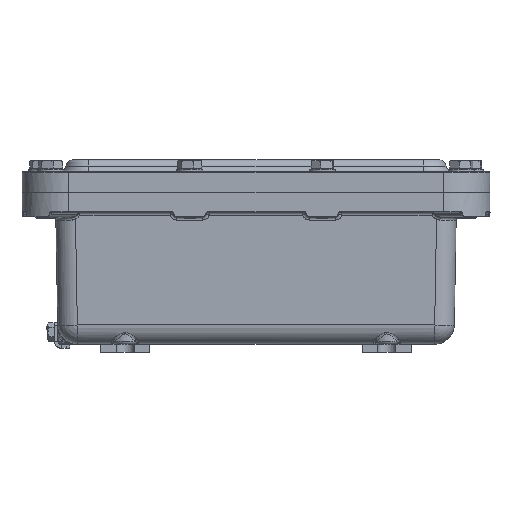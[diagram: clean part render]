
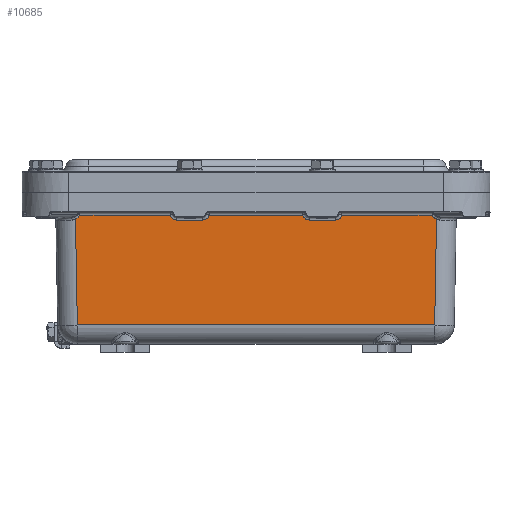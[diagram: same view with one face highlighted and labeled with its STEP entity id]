
A CAD part, left-side view. The second image highlights one B-rep face of the part: STEP entity #10685.
In plain terms, the highlighted planar face has unit normal (-1, 0, -0.018).
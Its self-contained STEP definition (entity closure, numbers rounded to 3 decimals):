
#10078=CARTESIAN_POINT('',(-72.212,-110.314,-16.476));
#10079=VERTEX_POINT('',#10078);
#10096=CARTESIAN_POINT('',(-72.256,-107.59,-13.965));
#10097=VERTEX_POINT('',#10096);
#10105=CARTESIAN_POINT('',(-72.274,-113.085,-12.965));
#10106=DIRECTION('',(-1.,0.0,-0.017));
#10107=DIRECTION('',(0.,1.,-0.017));
#10108=AXIS2_PLACEMENT_3D('',#10105,#10106,#10107);
#10109=ELLIPSE('',#10108,5.658,4.);
#10110=EDGE_CURVE('',#10097,#10079,#10109,.T.);
#10558=CARTESIAN_POINT('',(-71.084,-109.186,-81.109));
#10559=VERTEX_POINT('',#10558);
#10560=CARTESIAN_POINT('',(-72.212,-110.314,-16.476));
#10561=DIRECTION('',(0.017,0.017,-1.));
#10562=VECTOR('',#10561,64.653);
#10563=LINE('',#10560,#10562);
#10564=EDGE_CURVE('',#10079,#10559,#10563,.T.);
#10577=CARTESIAN_POINT('',(-72.5,122.6,0.0));
#10578=DIRECTION('',(-1.,0.0,-0.017));
#10579=DIRECTION('',(0.0,1.0,0.0));
#10580=AXIS2_PLACEMENT_3D('',#10577,#10578,#10579);
#10581=PLANE('',#10580);
#10582=ORIENTED_EDGE('',*,*,#10110,.F.);
#10583=CARTESIAN_POINT('',(-72.256,-52.355,-13.965));
#10584=VERTEX_POINT('',#10583);
#10585=CARTESIAN_POINT('',(-72.256,-52.355,-13.965));
#10586=DIRECTION('',(0.0,-1.0,0.0));
#10587=VECTOR('',#10586,55.235);
#10588=LINE('',#10585,#10587);
#10589=EDGE_CURVE('',#10097,#10584,#10588,.F.);
#10590=ORIENTED_EDGE('',*,*,#10589,.T.);
#10591=CARTESIAN_POINT('',(-72.204,-48.482,-16.965));
#10592=VERTEX_POINT('',#10591);
#10593=CARTESIAN_POINT('',(-72.274,-48.482,-12.965));
#10594=DIRECTION('',(-1.,0.,-0.017));
#10595=DIRECTION('',(0.017,0.,-1.));
#10596=AXIS2_PLACEMENT_3D('',#10593,#10594,#10595);
#10597=ELLIPSE('',#10596,4.001,4.0);
#10598=EDGE_CURVE('',#10592,#10584,#10597,.T.);
#10599=ORIENTED_EDGE('',*,*,#10598,.F.);
#10600=CARTESIAN_POINT('',(-72.204,-32.518,-16.965));
#10601=VERTEX_POINT('',#10600);
#10602=CARTESIAN_POINT('',(-72.204,-32.518,-16.965));
#10603=DIRECTION('',(0.0,-1.0,0.0));
#10604=VECTOR('',#10603,15.964);
#10605=LINE('',#10602,#10604);
#10606=EDGE_CURVE('',#10601,#10592,#10605,.T.);
#10607=ORIENTED_EDGE('',*,*,#10606,.F.);
#10608=CARTESIAN_POINT('',(-72.256,-28.645,-13.965));
#10609=VERTEX_POINT('',#10608);
#10610=CARTESIAN_POINT('',(-72.274,-32.518,-12.965));
#10611=DIRECTION('',(-1.,0.0,-0.017));
#10612=DIRECTION('',(0.017,0.,-1.));
#10613=AXIS2_PLACEMENT_3D('',#10610,#10611,#10612);
#10614=ELLIPSE('',#10613,4.001,4.);
#10615=EDGE_CURVE('',#10609,#10601,#10614,.T.);
#10616=ORIENTED_EDGE('',*,*,#10615,.F.);
#10617=CARTESIAN_POINT('',(-72.256,28.645,-13.965));
#10618=VERTEX_POINT('',#10617);
#10619=CARTESIAN_POINT('',(-72.256,28.645,-13.965));
#10620=DIRECTION('',(0.0,-1.0,0.0));
#10621=VECTOR('',#10620,57.29);
#10622=LINE('',#10619,#10621);
#10623=EDGE_CURVE('',#10609,#10618,#10622,.F.);
#10624=ORIENTED_EDGE('',*,*,#10623,.T.);
#10625=CARTESIAN_POINT('',(-72.204,32.518,-16.965));
#10626=VERTEX_POINT('',#10625);
#10627=CARTESIAN_POINT('',(-72.274,32.518,-12.965));
#10628=DIRECTION('',(-1.,0.,-0.017));
#10629=DIRECTION('',(0.017,0.,-1.));
#10630=AXIS2_PLACEMENT_3D('',#10627,#10628,#10629);
#10631=ELLIPSE('',#10630,4.001,4.0);
#10632=EDGE_CURVE('',#10626,#10618,#10631,.T.);
#10633=ORIENTED_EDGE('',*,*,#10632,.F.);
#10634=CARTESIAN_POINT('',(-72.204,48.482,-16.965));
#10635=VERTEX_POINT('',#10634);
#10636=CARTESIAN_POINT('',(-72.204,48.482,-16.965));
#10637=DIRECTION('',(0.0,-1.0,0.0));
#10638=VECTOR('',#10637,15.964);
#10639=LINE('',#10636,#10638);
#10640=EDGE_CURVE('',#10635,#10626,#10639,.T.);
#10641=ORIENTED_EDGE('',*,*,#10640,.F.);
#10642=CARTESIAN_POINT('',(-72.256,52.355,-13.965));
#10643=VERTEX_POINT('',#10642);
#10644=CARTESIAN_POINT('',(-72.274,48.482,-12.965));
#10645=DIRECTION('',(-1.,0.0,-0.017));
#10646=DIRECTION('',(0.017,0.,-1.));
#10647=AXIS2_PLACEMENT_3D('',#10644,#10645,#10646);
#10648=ELLIPSE('',#10647,4.001,4.0);
#10649=EDGE_CURVE('',#10643,#10635,#10648,.T.);
#10650=ORIENTED_EDGE('',*,*,#10649,.F.);
#10651=CARTESIAN_POINT('',(-72.256,107.59,-13.965));
#10652=VERTEX_POINT('',#10651);
#10653=CARTESIAN_POINT('',(-72.256,107.59,-13.965));
#10654=DIRECTION('',(0.0,-1.0,0.0));
#10655=VECTOR('',#10654,55.235);
#10656=LINE('',#10653,#10655);
#10657=EDGE_CURVE('',#10643,#10652,#10656,.F.);
#10658=ORIENTED_EDGE('',*,*,#10657,.T.);
#10659=CARTESIAN_POINT('',(-72.212,110.314,-16.476));
#10660=VERTEX_POINT('',#10659);
#10661=CARTESIAN_POINT('',(-72.274,113.085,-12.965));
#10662=DIRECTION('',(-1.,0.0,-0.017));
#10663=DIRECTION('',(0.,-1.,-0.017));
#10664=AXIS2_PLACEMENT_3D('',#10661,#10662,#10663);
#10665=ELLIPSE('',#10664,5.658,4.0);
#10666=EDGE_CURVE('',#10660,#10652,#10665,.T.);
#10667=ORIENTED_EDGE('',*,*,#10666,.F.);
#10668=CARTESIAN_POINT('',(-71.084,109.186,-81.109));
#10669=VERTEX_POINT('',#10668);
#10670=CARTESIAN_POINT('',(-72.212,110.314,-16.476));
#10671=DIRECTION('',(0.017,-0.017,-1.));
#10672=VECTOR('',#10671,64.653);
#10673=LINE('',#10670,#10672);
#10674=EDGE_CURVE('',#10669,#10660,#10673,.F.);
#10675=ORIENTED_EDGE('',*,*,#10674,.F.);
#10676=CARTESIAN_POINT('',(-71.084,-109.186,-81.109));
#10677=DIRECTION('',(0.0,1.0,0.0));
#10678=VECTOR('',#10677,218.372);
#10679=LINE('',#10676,#10678);
#10680=EDGE_CURVE('',#10559,#10669,#10679,.T.);
#10681=ORIENTED_EDGE('',*,*,#10680,.F.);
#10682=ORIENTED_EDGE('',*,*,#10564,.F.);
#10683=EDGE_LOOP('',(#10582,#10590,#10599,#10607,#10616,#10624,#10633,#10641,#10650,#10658,#10667,#10675,#10681,#10682));
#10684=FACE_OUTER_BOUND('',#10683,.T.);
#10685=ADVANCED_FACE('',(#10684),#10581,.T.);
